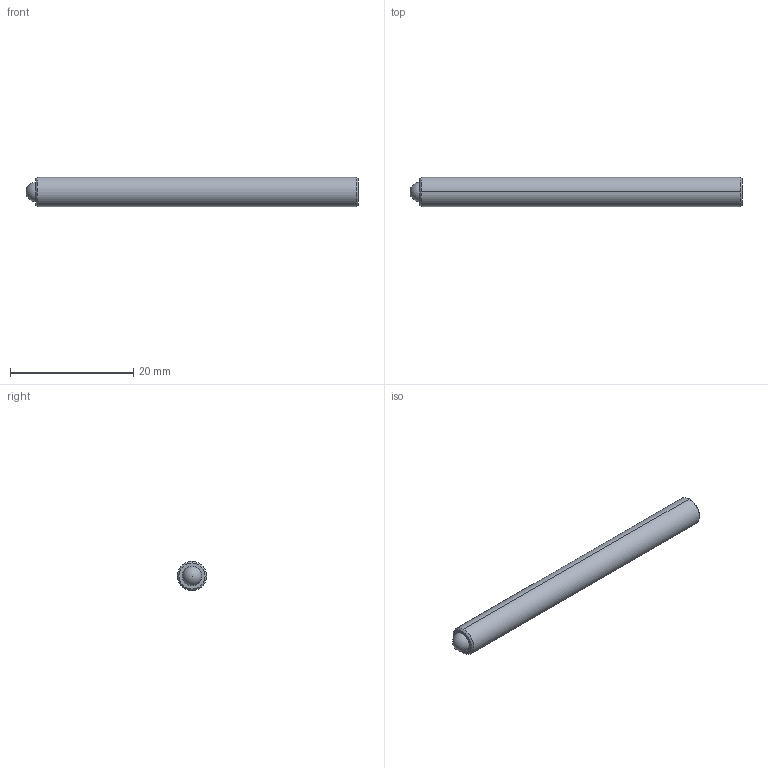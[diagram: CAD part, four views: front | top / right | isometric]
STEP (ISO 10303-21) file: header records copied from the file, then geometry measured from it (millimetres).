
FILE_DESCRIPTION (( 'STEP AP214' ), '1' );
FILE_NAME ('TS187-100-2125.STEP', '2013-02-11T16:04:41', ( 'workpc' ), ( 'Microsoft' ), 'SwSTEP 2.0', 'SolidWorks 2013', '' );
FILE_SCHEMA (( 'AUTOMOTIVE_DESIGN' ));
Length unit declared in the file: inch
Products named in the file (1): TS187-100-2125
Bounding box: 53.98 x 4.75 x 4.75 mm (x, y, z)
Volume: 923.7 mm3; surface area: 875.8 mm2
Topology: 2 solids, 2 shells, 20 faces, 45 edges, 29 vertices
Faces by surface type: plane 10, cylinder 4, cone 4, sphere 2
Entity records: 599 total; most frequent: DIRECTION 96, CARTESIAN_POINT 87, ORIENTED_EDGE 80, EDGE_CURVE 40, AXIS2_PLACEMENT_3D 35, VECTOR 26, LINE 26, VERTEX_POINT 26
